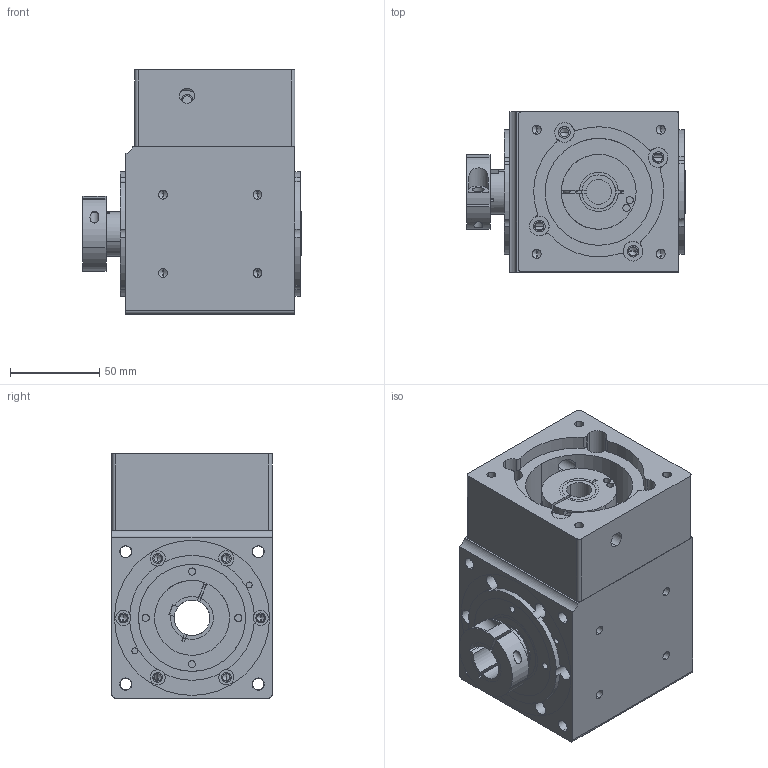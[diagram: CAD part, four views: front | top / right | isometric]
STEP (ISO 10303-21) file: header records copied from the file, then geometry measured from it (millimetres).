
FILE_DESCRIPTION (( 'STEP AP203' ), '1' );
FILE_NAME ('90单孔 （步进14轴）.STEP', '2023-07-31T03:49:53', ( 'User' ), ( 'China' ), 'SwSTEP 2.0', 'SolidWorks 2015', '' );
FILE_SCHEMA (( 'CONFIG_CONTROL_DESIGN' ));
Length unit declared in the file: millimetre
Products named in the file (13): 19-14粣杶; tapered roller bearings gb_Rolling bearings 32005 GB 297-94; 90等謂  ㄗ祭輛14粣ㄘ; PVFD090標杶; PVFD090蹟譫; PVFD090输入轴; PVFGB090怀堤粣; PVFD090標杶2; PVFDo9o眊极; 25-40-7蚐猾; PVFD090͹̨; PVFD090后法兰（步进）; deep groove ball bearings gb_Rolling bearings 6005 GB 276-94
Assembly tree (16 placements, depth 2):
  90等謂  ㄗ祭輛14粣ㄘ
    PVFDo9o眊极
    PVFD090͹̨  x2
    deep groove ball bearings gb_Rolling bearings 6005 GB 276-94  x2
    tapered roller bearings gb_Rolling bearings 32005 GB 297-94
    PVFD090標杶
    PVFD090蹟譫  x2
    PVFD090输入轴
    PVFGB090怀堤粣
    PVFD090標杶2
    25-40-7蚐猾  x2
    PVFD090后法兰（步进）
    19-14粣杶
Bounding box: 122.5 x 90 x 137 mm (x, y, z)
Volume: 814979.6 mm3; surface area: 248662.3 mm2
Topology: 16 solids, 16 shells, 1012 faces, 3442 edges, 2242 vertices
Faces by surface type: cylinder 389, torus 224, plane 195, cone 128, sphere 76
Entity records: 33999 total; most frequent: CARTESIAN_POINT 10802, ORIENTED_EDGE 4854, DIRECTION 4432, EDGE_CURVE 2427, AXIS2_PLACEMENT_3D 1943, VERTEX_POINT 1597, CIRCLE 1132, EDGE_LOOP 966
